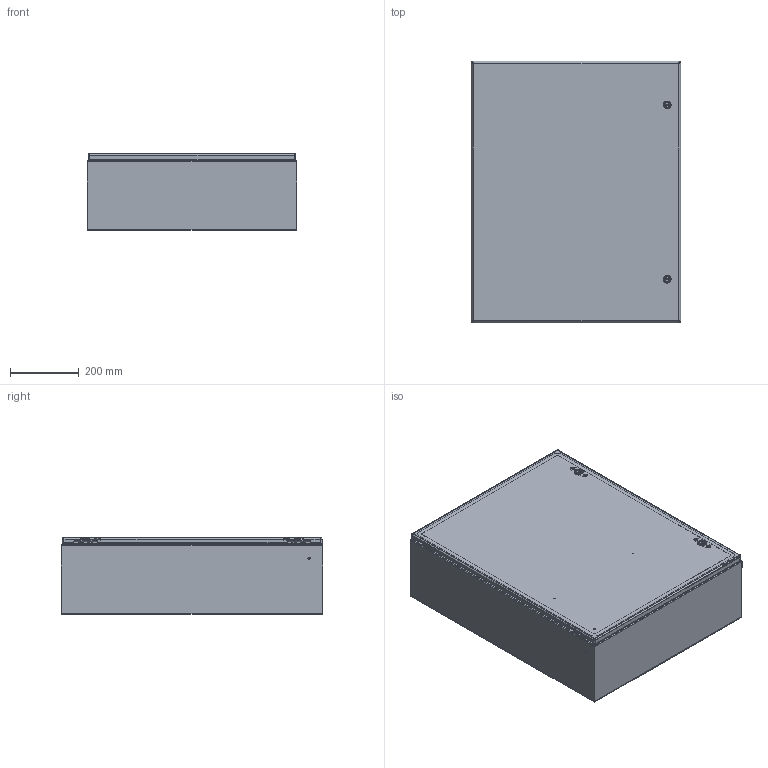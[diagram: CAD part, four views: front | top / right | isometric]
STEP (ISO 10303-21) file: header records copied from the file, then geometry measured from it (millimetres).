
FILE_DESCRIPTION (( 'STEP AP203' ), '1' );
FILE_NAME ('csd30248ss.STEP', '2012-03-06T13:30:55', ( 'Hoffman User' ), ( 'Hoffman Enclosures' ), 'SwSTEP 2.0', 'SolidWorks 2010', '' );
FILE_SCHEMA (( 'CONFIG_CONTROL_DESIGN' ));
Length unit declared in the file: inch
Products named in the file (24): csd30248ss; 87953388; 87953389; 23271002_After Weld; 87543026; 89076399; 89076193; 89056623; 87930615; 87928711; 87929769_Installed on Pin; 87953302_weldment; 87953303; 99401226_After Weld; 87751114_87751114; 87953339; 64101002; 64201001; 87541994_Installed Height; 87541995; 64202002; 64210001; 64203001; 87927840_87927840
Assembly tree (36 placements, depth 3):
  csd30248ss
    64101002  x2
      64202002
      87541995
      87927840_87927840
      87541994_Installed Height
      64201001
      64203001
      64210001
    87543026  x2
    87930615  x2
      87928711
      87929769_Installed on Pin
    89076399  x2
      89056623
      89076193
    87953388
      23271002_After Weld  x4
      99401226_After Weld
      87953389
    87953302_weldment
      87751114_87751114  x6
      87953303
      99401226_After Weld
      87953339
Bounding box: 609.6 x 762 x 223.9 mm (x, y, z)
Volume: 2601255.3 mm3; surface area: 3345889.3 mm2
Topology: 41 solids, 41 shells, 1922 faces, 4725 edges, 2908 vertices
Faces by surface type: plane 777, cylinder 537, bspline 372, torus 144, cone 84, sphere 8
Entity records: 42710 total; most frequent: CARTESIAN_POINT 14817, ORIENTED_EDGE 5426, DIRECTION 4837, EDGE_CURVE 2713, AXIS2_PLACEMENT_3D 1788, VERTEX_POINT 1666, LINE 1261, VECTOR 1261
